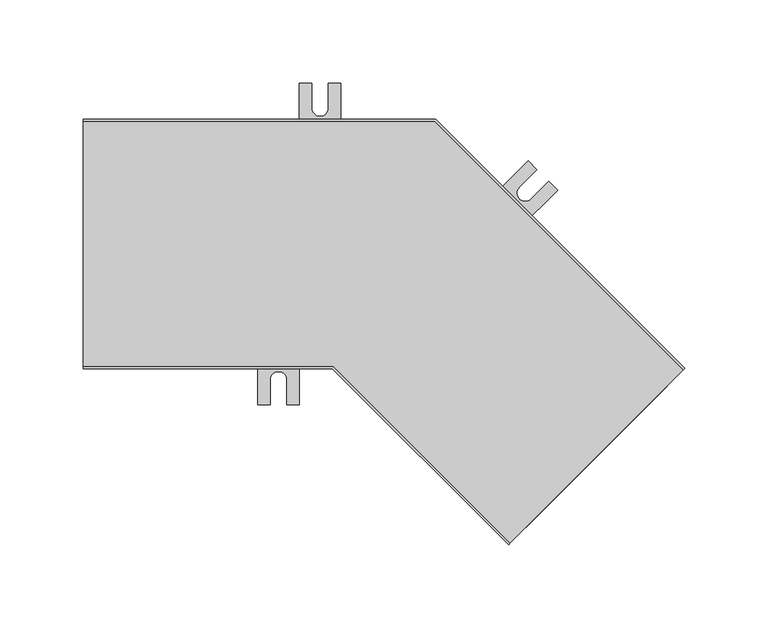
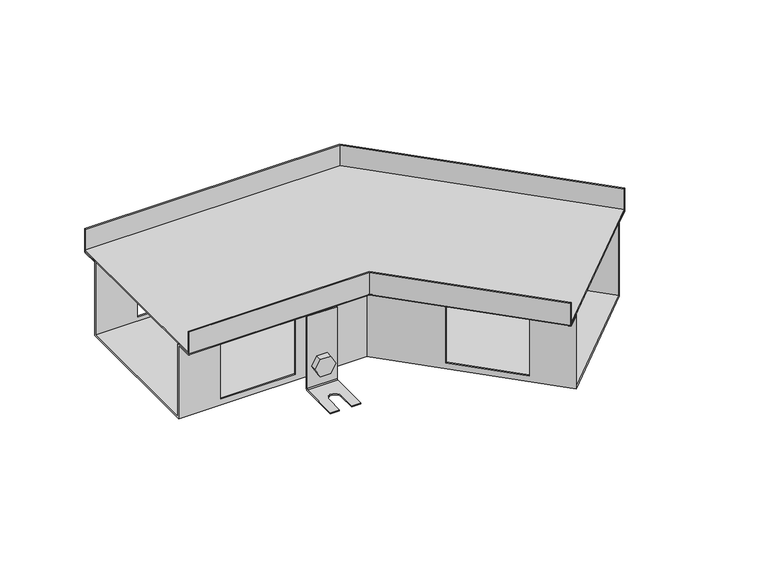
"""IFC4 building model written with IfcOpenShell, lengths in millimetres: proxy geometry, TECHNO_Угловой элемент_KVU : 150_085_135°."""

from ifc_helpers import new_model, si_unit, point, frame, frame_2d, origin, place, context, project, spatial, polyline, circle_curve, ellipse_curve, trimmed, segment, composite_curve, outline, extrude, source, transform, mapped, element, save
from ifc_brep_helpers import plane_surface, cylinder_surface, revolved_surface, advanced_brep


def mechanical_equipment_4d0f178e(model_context):
    return source(origin(), model_context, "Body", "SolidModel", [
        extrude(outline(composite_curve([segment(trimmed(circle_curve(frame_2d((0.0, -7.5000001)), 7.5), [point((0.0, -15.0))], [point((0.0, 0.0))], False, "CARTESIAN"), True, "CONTINUOUS"), segment(trimmed(circle_curve(frame_2d((0.0, -7.5000001)), 7.5), [point((0.0, 0.0))], [point((0.0, -15.0))], False, "CARTESIAN"), True, "CONTINUOUS")], self_intersect=False)), frame((250.4666089, -30.7831745, -75.5), z_axis=(0.7071067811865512, 0.7071067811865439, 0.0), x_axis=(0.0, 0.0, 1.0)), (0.0, 0.0, 1.0), 1.5),
        extrude(outline(polyline([(0.0, 0.0), (8.660254, 1e-07), (12.990381, -7.5), (8.660254, -15.0), (0.0, -15.0), (-4.3301271, -7.4999999), (0.0, 0.0)])), frame((234.584811, -23.810922, -75.5), z_axis=(0.7071067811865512, 0.7071067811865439, 0.0), x_axis=(0.3535533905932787, -0.3535533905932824, -0.8660254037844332)), (0.0, 0.0, 1.0), 5.1),
        advanced_brep(
        [(253.1536147, -35.1672365, -30.5), (253.1536147, -35.1672365, -93.5), (252.5879292, -35.7329219, -94.3), (229.2534055, -59.0674457, -94.3), (229.2534055, -59.0674457, -95.5), (252.5879292, -35.7329219, -95.5), (254.0021428, -34.3187084, -93.5), (254.0021428, -34.3187084, -30.5), (235.4759451, -17.489567, -30.5), (236.3244733, -16.6410388, -30.5), (236.3244733, -16.6410388, -93.5), (234.9102597, -18.0552524, -95.5), (211.5757359, -41.3897762, -95.5), (211.5757359, -41.3897762, -94.3), (234.9102597, -18.0552524, -94.3), (235.4759451, -17.489567, -93.5), (216.8790368, -46.693077, -94.3), (227.4856385, -36.0864753, -94.3), (234.5567063, -43.1575431, -94.3), (223.9501046, -53.7641449, -94.3), (223.9501046, -53.7641449, -95.5), (216.8790368, -46.693077, -95.5), (234.5567063, -43.1575431, -95.5), (227.4856385, -36.0864753, -95.5)],
        [
            (0, 1),
            (1, 2, circle_curve(frame((252.5879292, -35.7329219, -93.5), z_axis=(-0.7071067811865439, 0.7071067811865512, 0.0), x_axis=(-0.7071067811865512, -0.7071067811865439, 0.0)), 0.8)),
            (2, 3),
            (3, 4),
            (4, 5),
            (5, 6, circle_curve(frame((252.5879292, -35.7329219, -93.5), z_axis=(0.7071067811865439, -0.7071067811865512, 0.0), x_axis=(-0.7071067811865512, -0.7071067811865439, 0.0)), 2.0)),
            (6, 7),
            (7, 0),
            (8, 9),
            (9, 10),
            (10, 11, circle_curve(frame((234.9102597, -18.0552524, -93.5), z_axis=(-0.7071067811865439, 0.7071067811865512, 0.0), x_axis=(-0.7071067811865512, -0.7071067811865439, 0.0)), 2.0)),
            (11, 12),
            (12, 13),
            (13, 14),
            (14, 15, circle_curve(frame((234.9102597, -18.0552524, -93.5), z_axis=(0.7071067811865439, -0.7071067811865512, 0.0), x_axis=(-0.7071067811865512, -0.7071067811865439, 0.0)), 0.8)),
            (15, 8),
            (0, 8),
            (15, 1),
            (14, 2),
            (13, 16),
            (16, 17),
            (17, 18, circle_curve(frame((231.0211724, -39.6220092, -94.3), z_axis=(0.0, 0.0, -1.0), x_axis=(0.7071067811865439, -0.7071067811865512, 0.0)), 5.0)),
            (18, 19),
            (19, 3),
            (19, 20),
            (20, 4),
            (12, 21),
            (21, 16),
            (20, 22),
            (22, 23, circle_curve(frame((231.0211724, -39.6220092, -95.5), z_axis=(0.0, 0.0, 1.0), x_axis=(0.7071067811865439, -0.7071067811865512, 0.0)), 5.0)),
            (23, 21),
            (11, 5),
            (10, 6),
            (9, 7),
            (23, 17),
            (18, 22),
        ],
        [
            plane_surface(frame((253.1536147, -35.1672365, -30.5), z_axis=(0.7071067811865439, -0.7071067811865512, 0.0), x_axis=(0.0, 0.0, -1.0))),
            plane_surface(frame((235.4759451, -17.489567, -30.5), z_axis=(-0.7071067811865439, 0.7071067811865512, 0.0), x_axis=(0.0, 0.0, 1.0))),
            plane_surface(frame((253.1536147, -35.1672365, -30.5), z_axis=(-0.7071067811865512, -0.7071067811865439, 0.0), x_axis=(-0.7071067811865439, 0.7071067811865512, 0.0))),
            revolved_surface(polyline([(234.34457427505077, -18.620937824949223, -93.5), (252.02224382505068, -36.29860737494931, -93.5)]), (234.9102597, -18.0552524, -93.5), (-0.7071067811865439, 0.7071067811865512, 0.0)),
            plane_surface(frame((252.5879292, -35.7329219, -94.3), z_axis=(0.0, 0.0, 1.0), x_axis=(-0.7071067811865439, 0.7071067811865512, 0.0))),
            plane_surface(frame((229.2534055, -59.0674457, -94.3), z_axis=(-0.7071067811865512, -0.7071067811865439, 0.0), x_axis=(-0.7071067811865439, 0.7071067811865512, 0.0))),
            plane_surface(frame((229.2534055, -59.0674457, -95.5), z_axis=(0.0, 0.0, -1.0), x_axis=(-0.7071067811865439, 0.7071067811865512, 0.0))),
            cylinder_surface(frame((234.9102597, -18.0552524, -93.5), z_axis=(0.7071067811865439, -0.7071067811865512, 0.0), x_axis=(-0.7071067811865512, -0.7071067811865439, 0.0)), 2.0),
            plane_surface(frame((254.0021428, -34.3187084, -93.5), z_axis=(0.7071067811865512, 0.7071067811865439, 0.0), x_axis=(-0.7071067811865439, 0.7071067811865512, 0.0))),
            plane_surface(frame((254.0021428, -34.3187084, -30.5), z_axis=(0.0, 0.0, 1.0), x_axis=(-0.7071067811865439, 0.7071067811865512, 0.0))),
            plane_surface(frame((227.4856385, -36.0864753, -94.3), z_axis=(0.7071067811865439, -0.7071067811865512, 0.0), x_axis=(0.0, 0.0, -1.0))),
            plane_surface(frame((223.9501046, -53.7641449, -94.3), z_axis=(-0.707106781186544, 0.7071067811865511, 0.0), x_axis=(0.0, 0.0, -1.0))),
            revolved_surface(polyline([(234.55670630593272, -43.15754310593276, -94.3), (234.55670630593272, -43.15754310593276, -95.5)]), (231.0211724, -39.6220092, -95.5), (0.0, 0.0, 1.0)),
        ],
        [
            (0, [[1, 2, 3, 4, 5, 6, 7, 8]]),
            (1, [[9, 10, 11, 12, 13, 14, 15, 16]]),
            (2, [[-1, 17, -16, 18]]),
            (3, [[-2, -18, -15, 19]]),
            (4, [[-3, -19, -14, 20, 21, 22, 23, 24]]),
            (5, [[-4, -24, 25, 26]]),
            (5, [[-13, 27, 28, -20]]),
            (6, [[-5, -26, 29, 30, 31, -27, -12, 32]]),
            (7, [[-6, -32, -11, 33]]),
            (8, [[-7, -33, -10, 34]]),
            (9, [[-8, -34, -9, -17]]),
            (10, [[35, -21, -28, -31]]),
            (11, [[36, -29, -25, -23]]),
            (12, [[-35, -30, -36, -22]]),
        ],
    ),
        extrude(outline(composite_curve([segment(trimmed(circle_curve(frame_2d((0.0, -7.5)), 7.5), [point((0.0, -15.0))], [point((0.0, 0.0))], False, "CARTESIAN"), True, "CONTINUOUS"), segment(trimmed(circle_curve(frame_2d((0.0, -7.5)), 7.5), [point((0.0, 0.0))], [point((0.0, -15.0))], False, "CARTESIAN"), True, "CONTINUOUS")], self_intersect=False)), frame((245.3754401, 20.6941992, -75.5), z_axis=(0.7071067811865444, 0.7071067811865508, 0.0), x_axis=(0.0, 0.0, -1.0)), (0.0, 0.0, 1.0), 1.5),
        extrude(outline(polyline([(0.0, 0.0), (4.330127, -7.5), (0.0, -15.0), (-8.660254, -15.0), (-12.990381, -7.5), (-8.6602541, 0.0), (0.0, 0.0)])), frame((258.7116536, 11.1763623, -75.5), z_axis=(0.7071067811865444, 0.7071067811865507, 0.0), x_axis=(0.35355339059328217, -0.35355339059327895, 0.8660254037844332)), (0.0, 0.0, 1.0), 5.1),
        advanced_brep(
        [(243.7490945, 26.1389214, -30.5), (243.7490945, 26.1389214, -93.5), (244.3147799, 26.7046068, -94.3), (267.6493037, 50.0391306, -94.3), (267.6493037, 50.0391306, -95.5), (244.3147799, 26.7046068, -95.5), (242.9005663, 25.2903933, -93.5), (242.9005663, 25.2903933, -30.5), (261.426764, 8.4612519, -30.5), (260.5782359, 7.6127238, -30.5), (260.5782359, 7.6127238, -93.5), (261.9924494, 9.0269373, -95.5), (285.3269732, 32.3614611, -95.5), (285.3269732, 32.3614611, -94.3), (261.9924494, 9.0269373, -94.3), (261.426764, 8.4612519, -93.5), (280.0236724, 37.664762, -94.3), (269.4170706, 27.0581602, -94.3), (262.3460028, 34.129228, -94.3), (272.9526045, 44.7358298, -94.3), (272.9526045, 44.7358298, -95.5), (280.0236724, 37.664762, -95.5), (262.3460028, 34.129228, -95.5), (269.4170706, 27.0581602, -95.5)],
        [
            (0, 1),
            (1, 2, circle_curve(frame((244.3147799, 26.7046068, -93.5), z_axis=(0.7071067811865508, -0.7071067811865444, 0.0), x_axis=(0.7071067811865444, 0.7071067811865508, 0.0)), 0.8)),
            (2, 3),
            (3, 4),
            (4, 5),
            (5, 6, circle_curve(frame((244.3147799, 26.7046068, -93.5), z_axis=(-0.7071067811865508, 0.7071067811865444, 0.0), x_axis=(0.7071067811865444, 0.7071067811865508, 0.0)), 2.0)),
            (6, 7),
            (7, 0),
            (8, 9),
            (9, 10),
            (10, 11, circle_curve(frame((261.9924494, 9.0269373, -93.5), z_axis=(0.7071067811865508, -0.7071067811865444, 0.0), x_axis=(0.7071067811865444, 0.7071067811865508, 0.0)), 2.0)),
            (11, 12),
            (12, 13),
            (13, 14),
            (14, 15, circle_curve(frame((261.9924494, 9.0269373, -93.5), z_axis=(-0.7071067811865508, 0.7071067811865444, 0.0), x_axis=(0.7071067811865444, 0.7071067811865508, 0.0)), 0.8)),
            (15, 8),
            (0, 8),
            (15, 1),
            (14, 2),
            (13, 16),
            (16, 17),
            (17, 18, circle_curve(frame((265.8815367, 30.5936941, -94.3), z_axis=(0.0, 0.0, -1.0), x_axis=(-0.7071067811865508, 0.7071067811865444, 0.0)), 5.0)),
            (18, 19),
            (19, 3),
            (19, 20),
            (20, 4),
            (12, 21),
            (21, 16),
            (20, 22),
            (22, 23, circle_curve(frame((265.8815367, 30.5936941, -95.5), z_axis=(0.0, 0.0, 1.0), x_axis=(-0.7071067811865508, 0.7071067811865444, 0.0)), 5.0)),
            (23, 21),
            (11, 5),
            (10, 6),
            (9, 7),
            (23, 17),
            (18, 22),
        ],
        [
            plane_surface(frame((243.7490945, 26.1389214, -30.5), z_axis=(-0.7071067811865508, 0.7071067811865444, 0.0), x_axis=(0.0, 0.0, -1.0))),
            plane_surface(frame((261.426764, 8.4612519, -30.5), z_axis=(0.7071067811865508, -0.7071067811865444, 0.0), x_axis=(0.0, 0.0, 1.0))),
            plane_surface(frame((243.7490945, 26.1389214, -30.5), z_axis=(0.7071067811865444, 0.7071067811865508, 0.0), x_axis=(0.7071067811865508, -0.7071067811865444, 0.0))),
            revolved_surface(polyline([(262.5581348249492, 9.59262272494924, -93.5), (244.8804653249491, 27.270292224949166, -93.5)]), (261.9924494, 9.0269373, -93.5), (0.7071067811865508, -0.7071067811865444, 0.0)),
            plane_surface(frame((244.3147799, 26.7046068, -94.3), z_axis=(0.0, 0.0, 1.0000000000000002), x_axis=(0.7071067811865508, -0.7071067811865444, 0.0))),
            plane_surface(frame((267.6493037, 50.0391306, -94.3), z_axis=(0.7071067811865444, 0.7071067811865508, 0.0), x_axis=(0.7071067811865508, -0.7071067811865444, 0.0))),
            plane_surface(frame((267.6493037, 50.0391306, -95.5), z_axis=(0.0, 0.0, -1.0000000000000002), x_axis=(0.7071067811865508, -0.7071067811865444, 0.0))),
            cylinder_surface(frame((261.9924494, 9.0269373, -93.5), z_axis=(-0.7071067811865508, 0.7071067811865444, 0.0), x_axis=(0.7071067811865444, 0.7071067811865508, 0.0)), 2.0),
            plane_surface(frame((242.9005663, 25.2903933, -93.5), z_axis=(-0.7071067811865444, -0.7071067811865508, 0.0), x_axis=(0.7071067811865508, -0.7071067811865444, 0.0))),
            plane_surface(frame((242.9005663, 25.2903933, -30.5), z_axis=(0.0, 0.0, 1.0000000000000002), x_axis=(0.7071067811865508, -0.7071067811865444, 0.0))),
            plane_surface(frame((269.4170706, 27.0581602, -94.3), z_axis=(-0.7071067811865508, 0.7071067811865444, 0.0), x_axis=(0.0, 0.0, -1.0))),
            plane_surface(frame((272.9526045, 44.7358298, -94.3), z_axis=(0.7071067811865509, -0.7071067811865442, 0.0), x_axis=(0.0, 0.0, -1.0))),
            revolved_surface(polyline([(262.34600279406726, 34.129228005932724, -94.3), (262.34600279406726, 34.129228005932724, -95.5)]), (265.8815367, 30.5936941, -95.5), (0.0, 0.0, 1.0)),
        ],
        [
            (0, [[1, 2, 3, 4, 5, 6, 7, 8]]),
            (1, [[9, 10, 11, 12, 13, 14, 15, 16]]),
            (2, [[-1, 17, -16, 18]]),
            (3, [[-2, -18, -15, 19]]),
            (4, [[-3, -19, -14, 20, 21, 22, 23, 24]]),
            (5, [[-4, -24, 25, 26]]),
            (5, [[-13, 27, 28, -20]]),
            (6, [[-5, -26, 29, 30, 31, -27, -12, 32]]),
            (7, [[-6, -32, -11, 33]]),
            (8, [[-7, -33, -10, 34]]),
            (9, [[-8, -34, -9, -17]]),
            (10, [[35, -21, -28, -31]]),
            (11, [[36, -29, -25, -23]]),
            (12, [[-35, -30, -36, -22]]),
        ],
    ),
        extrude(outline(composite_curve([segment(trimmed(circle_curve(frame_2d((-75.5, 142.5)), 7.5), [point((-75.5, 135.0))], [point((-75.5, 150.0))], False, "CARTESIAN"), True, "CONTINUOUS"), segment(trimmed(circle_curve(frame_2d((-75.5, 142.5)), 7.5), [point((-75.5, 150.0))], [point((-75.5, 135.0))], False, "CARTESIAN"), True, "CONTINUOUS")], self_intersect=False)), frame((0.0, 60.2, 0.0), z_axis=(0.0, 1.0, 0.0), x_axis=(0.0, 0.0, 1.0)), (0.0, 0.0, 1.0), 1.5),
        extrude(outline(polyline([(-75.5, 133.839746), (-83.0, 138.169873), (-83.0, 146.830127), (-75.5, 151.160254), (-68.0, 146.830127), (-68.0, 138.169873), (-75.5, 133.839746)])), frame((0.0, 62.9, 0.0), z_axis=(0.0, 1.0, 0.0), x_axis=(0.0, 0.0, 1.0)), (0.0, 0.0, 1.0), 5.1),
        advanced_brep(
        [(155.0, 62.9, -30.5), (155.0, 61.7, -30.5), (155.0, 61.7, -93.5), (155.0, 63.7, -95.5), (155.0, 96.7, -95.5), (155.0, 96.7, -94.3), (155.0, 63.7, -94.3), (155.0, 62.9, -93.5), (130.0, 62.9, -30.5), (130.0, 62.9, -93.5), (130.0, 63.7, -94.3), (130.0, 96.7, -94.3), (130.0, 96.7, -95.5), (130.0, 63.7, -95.5), (130.0, 61.7, -93.5), (130.0, 61.7, -30.5), (147.5, 96.7, -94.3), (147.5, 81.7, -94.3), (137.5, 81.7, -94.3), (137.5, 96.7, -94.3), (137.5, 96.7, -95.5), (147.5, 96.7, -95.5), (137.5, 81.7, -95.5), (147.5, 81.7, -95.5)],
        [
            (0, 1),
            (1, 2),
            (2, 3, circle_curve(frame((155.0, 63.7, -93.5), z_axis=(1.0, 0.0, 0.0), x_axis=(0.0, 1.0, 0.0)), 2.0)),
            (3, 4),
            (4, 5),
            (5, 6),
            (6, 7, circle_curve(frame((155.0, 63.7, -93.5), z_axis=(-1.0, 0.0, 0.0), x_axis=(0.0, 1.0, 0.0)), 0.8)),
            (7, 0),
            (8, 9),
            (9, 10, circle_curve(frame((130.0, 63.7, -93.5), z_axis=(1.0, 0.0, 0.0), x_axis=(0.0, 1.0, 0.0)), 0.8)),
            (10, 11),
            (11, 12),
            (12, 13),
            (13, 14, circle_curve(frame((130.0, 63.7, -93.5), z_axis=(-1.0, 0.0, 0.0), x_axis=(0.0, 1.0, 0.0)), 2.0)),
            (14, 15),
            (15, 8),
            (7, 9),
            (8, 0),
            (6, 10),
            (5, 16),
            (16, 17),
            (17, 18, circle_curve(frame((142.5, 81.7, -94.3), z_axis=(0.0, 0.0, -1.0), x_axis=(1.0, 0.0, 0.0)), 5.0)),
            (18, 19),
            (19, 11),
            (19, 20),
            (20, 12),
            (4, 21),
            (21, 16),
            (3, 13),
            (20, 22),
            (22, 23, circle_curve(frame((142.5, 81.7, -95.5), z_axis=(0.0, 0.0, 1.0), x_axis=(1.0, 0.0, 0.0)), 5.0)),
            (23, 21),
            (2, 14),
            (1, 15),
            (18, 22),
            (23, 17),
        ],
        [
            plane_surface(frame((155.0, 62.9, -30.5), z_axis=(1.0, 0.0, 0.0), x_axis=(0.0, 0.0, -1.0))),
            plane_surface(frame((130.0, 62.9, -30.5), z_axis=(-1.0, 0.0, 0.0), x_axis=(0.0, 0.0, 1.0))),
            plane_surface(frame((155.0, 62.9, -30.5), z_axis=(0.0, 1.0, 0.0), x_axis=(-1.0, 0.0, 0.0))),
            revolved_surface(polyline([(130.0, 64.5, -93.5), (155.0, 64.5, -93.5)]), (130.0, 63.7, -93.5), (-1.0, 0.0, 0.0)),
            plane_surface(frame((155.0, 63.7, -94.3), z_axis=(0.0, 0.0, 1.0), x_axis=(-1.0, 0.0, 0.0))),
            plane_surface(frame((155.0, 96.7, -94.3), z_axis=(0.0, 1.0, 0.0), x_axis=(-1.0, 0.0, 0.0))),
            plane_surface(frame((155.0, 96.7, -95.5), z_axis=(0.0, 0.0, -1.0), x_axis=(-1.0, 0.0, 0.0))),
            cylinder_surface(frame((130.0, 63.7, -93.5), z_axis=(1.0, 0.0, 0.0), x_axis=(0.0, 1.0, 0.0)), 2.0),
            plane_surface(frame((155.0, 61.7, -93.5), z_axis=(0.0, -1.0, 0.0), x_axis=(-1.0, 0.0, 0.0))),
            plane_surface(frame((155.0, 61.7, -30.5), z_axis=(0.0, 0.0, 1.0), x_axis=(-1.0, 0.0, 0.0))),
            plane_surface(frame((137.5, 81.7, -94.3), z_axis=(1.0, 0.0, 0.0), x_axis=(0.0, 0.0, -1.0))),
            plane_surface(frame((147.5, 96.7, -94.3), z_axis=(-1.0, 0.0, 0.0), x_axis=(0.0, 0.0, -1.0))),
            revolved_surface(polyline([(147.5, 81.7, -94.3), (147.5, 81.7, -95.5)]), (142.5, 81.7, -95.5), (0.0, 0.0, 1.0)),
        ],
        [
            (0, [[1, 2, 3, 4, 5, 6, 7, 8]]),
            (1, [[9, 10, 11, 12, 13, 14, 15, 16]]),
            (2, [[17, -9, 18, -8]]),
            (3, [[19, -10, -17, -7]]),
            (4, [[20, 21, 22, 23, 24, -11, -19, -6]]),
            (5, [[-24, 25, 26, -12]]),
            (5, [[27, 28, -20, -5]]),
            (6, [[29, -13, -26, 30, 31, 32, -27, -4]]),
            (7, [[33, -14, -29, -3]]),
            (8, [[34, -15, -33, -2]]),
            (9, [[-18, -16, -34, -1]]),
            (10, [[-30, -25, -23, 35]]),
            (11, [[-21, -28, -32, 36]]),
            (12, [[-22, -36, -31, -35]]),
        ],
    ),
        extrude(outline(composite_curve([segment(trimmed(circle_curve(frame_2d((-75.5, 117.5)), 7.5), [point((-75.5, 110.0))], [point((-75.5, 125.0))], False, "CARTESIAN"), True, "CONTINUOUS"), segment(trimmed(circle_curve(frame_2d((-75.5, 117.5)), 7.5), [point((-75.5, 125.0))], [point((-75.5, 110.0))], False, "CARTESIAN"), True, "CONTINUOUS")], self_intersect=False)), frame((0.0, -61.7, 0.0), z_axis=(0.0, 1.0, 0.0), x_axis=(0.0, 0.0, 1.0)), (0.0, 0.0, 1.0), 1.5),
        extrude(outline(polyline([(-75.5, 108.839746), (-83.0, 113.169873), (-83.0, 121.830127), (-75.5, 126.160254), (-68.0, 121.830127), (-68.0, 113.169873), (-75.5, 108.839746)])), frame((0.0, -68.0, 0.0), z_axis=(0.0, 1.0, 0.0), x_axis=(0.0, 0.0, 1.0)), (0.0, 0.0, 1.0), 5.1),
        advanced_brep(
        [(130.0, -62.9, -30.5), (130.0, -62.9, -93.5), (130.0, -63.7, -94.3), (130.0, -96.7, -94.3), (130.0, -96.7, -95.5), (130.0, -63.7, -95.5), (130.0, -61.7, -93.5), (130.0, -61.7, -30.5), (105.0, -62.9, -30.5), (105.0, -61.7, -30.5), (105.0, -61.7, -93.5), (105.0, -63.7, -95.5), (105.0, -96.7, -95.5), (105.0, -96.7, -94.3), (105.0, -63.7, -94.3), (105.0, -62.9, -93.5), (112.5, -96.7, -94.3), (112.5, -81.7, -94.3), (122.5, -81.7, -94.3), (122.5, -96.7, -94.3), (122.5, -96.7, -95.5), (112.5, -96.7, -95.5), (122.5, -81.7, -95.5), (112.5, -81.7, -95.5)],
        [
            (0, 1),
            (1, 2, circle_curve(frame((130.0, -63.7, -93.5), z_axis=(-1.0, 0.0, 0.0), x_axis=(0.0, -1.0, 0.0)), 0.8)),
            (2, 3),
            (3, 4),
            (4, 5),
            (5, 6, circle_curve(frame((130.0, -63.7, -93.5), z_axis=(1.0, 0.0, 0.0), x_axis=(0.0, -1.0, 0.0)), 2.0)),
            (6, 7),
            (7, 0),
            (8, 9),
            (9, 10),
            (10, 11, circle_curve(frame((105.0, -63.7, -93.5), z_axis=(-1.0, 0.0, 0.0), x_axis=(0.0, -1.0, 0.0)), 2.0)),
            (11, 12),
            (12, 13),
            (13, 14),
            (14, 15, circle_curve(frame((105.0, -63.7, -93.5), z_axis=(1.0, 0.0, 0.0), x_axis=(0.0, -1.0, 0.0)), 0.8)),
            (15, 8),
            (0, 8),
            (15, 1),
            (14, 2),
            (13, 16),
            (16, 17),
            (17, 18, circle_curve(frame((117.5, -81.7, -94.3), z_axis=(0.0, 0.0, -1.0), x_axis=(1.0, 0.0, 0.0)), 5.0)),
            (18, 19),
            (19, 3),
            (19, 20),
            (20, 4),
            (12, 21),
            (21, 16),
            (20, 22),
            (22, 23, circle_curve(frame((117.5, -81.7, -95.5), z_axis=(0.0, 0.0, 1.0), x_axis=(1.0, 0.0, 0.0)), 5.0)),
            (23, 21),
            (11, 5),
            (10, 6),
            (9, 7),
            (23, 17),
            (18, 22),
        ],
        [
            plane_surface(frame((130.0, -62.9, -30.5), z_axis=(1.0, 0.0, 0.0), x_axis=(0.0, 0.0, -1.0))),
            plane_surface(frame((105.0, -62.9, -30.5), z_axis=(-1.0, 0.0, 0.0), x_axis=(0.0, 0.0, 1.0))),
            plane_surface(frame((130.0, -62.9, -30.5), z_axis=(0.0, -1.0, 0.0), x_axis=(-1.0, 0.0, 0.0))),
            revolved_surface(polyline([(105.0, -64.5, -93.5), (130.0, -64.5, -93.5)]), (105.0, -63.7, -93.5), (-1.0, 0.0, 0.0)),
            plane_surface(frame((130.0, -63.7, -94.3), z_axis=(0.0, 0.0, 1.0), x_axis=(-1.0, 0.0, 0.0))),
            plane_surface(frame((130.0, -96.7, -94.3), z_axis=(0.0, -1.0, 0.0), x_axis=(-1.0, 0.0, 0.0))),
            plane_surface(frame((130.0, -96.7, -95.5), z_axis=(0.0, 0.0, -1.0), x_axis=(-1.0, 0.0, 0.0))),
            cylinder_surface(frame((105.0, -63.7, -93.5), z_axis=(1.0, 0.0, 0.0), x_axis=(0.0, -1.0, 0.0)), 2.0),
            plane_surface(frame((130.0, -61.7, -93.5), z_axis=(0.0, 1.0, 0.0), x_axis=(-1.0, 0.0, 0.0))),
            plane_surface(frame((130.0, -61.7, -30.5), z_axis=(0.0, 0.0, 1.0), x_axis=(-1.0, 0.0, 0.0))),
            plane_surface(frame((112.5, -81.7, -94.3), z_axis=(1.0, 0.0, 0.0), x_axis=(0.0, 0.0, -1.0))),
            plane_surface(frame((122.5, -96.7, -94.3), z_axis=(-1.0, 0.0, 0.0), x_axis=(0.0, 0.0, -1.0))),
            revolved_surface(polyline([(122.5, -81.7, -94.3), (122.5, -81.7, -95.5)]), (117.5, -81.7, -95.5), (0.0, 0.0, 1.0)),
        ],
        [
            (0, [[1, 2, 3, 4, 5, 6, 7, 8]]),
            (1, [[9, 10, 11, 12, 13, 14, 15, 16]]),
            (2, [[-1, 17, -16, 18]]),
            (3, [[-2, -18, -15, 19]]),
            (4, [[-3, -19, -14, 20, 21, 22, 23, 24]]),
            (5, [[-4, -24, 25, 26]]),
            (5, [[-13, 27, 28, -20]]),
            (6, [[-5, -26, 29, 30, 31, -27, -12, 32]]),
            (7, [[-6, -32, -11, 33]]),
            (8, [[-7, -33, -10, 34]]),
            (9, [[-8, -34, -9, -17]]),
            (10, [[35, -21, -28, -31]]),
            (11, [[36, -29, -25, -23]]),
            (12, [[-35, -30, -36, -22]]),
        ],
    ),
        extrude(outline(polyline([(361.0581095, -75.7551657), (256.6891486, -180.1241267), (150.3650219, -73.8), (0.0, -73.8), (0.0, 73.8), (211.5029437, 73.8), (361.0581095, -75.7551657)])), frame((0.0, 0.0, -19.3), z_axis=(0.0, 0.0, 1.0), x_axis=(1.0, 0.0, 0.0)), (0.0, 0.0, 1.0), 1.2),
        advanced_brep(
        [(255.8406204, -180.9726548, -19.3), (256.6891486, -180.1241267, -20.5), (266.3058008, -170.5074744, -20.5), (266.3058008, -170.5074744, -85.0), (351.4414572, -85.371818, -85.0), (351.4414572, -85.371818, -20.5), (361.0581095, -75.7551657, -20.5), (361.9066376, -74.9066376, -19.3), (361.9066376, -74.9066376, 0.0), (361.0581095, -75.7551657, 0.0), (361.0581095, -75.7551657, -19.3), (351.4414572, -85.371818, -19.3), (350.5929291, -86.2203461, -20.5), (350.5929291, -86.2203461, -83.8), (267.1543289, -169.6589463, -83.8), (267.1543289, -169.6589463, -20.5), (266.3058008, -170.5074744, -19.3), (256.6891486, -180.1241267, -19.3), (256.6891486, -180.1241267, 0.0), (255.8406204, -180.9726548, 0.0), (0.0, -75.0, -19.3), (0.0, -75.0, 0.0), (0.0, -73.8, 0.0), (0.0, -73.8, -19.3), (0.0, -60.2, -19.3), (0.0, -59.0, -20.5), (0.0, -59.0, -83.8), (0.0, 59.0, -83.8), (0.0, 59.0, -20.5), (0.0, 60.2, -19.3), (0.0, 73.8, -19.3), (0.0, 73.8, 0.0), (0.0, 75.0, 0.0), (0.0, 75.0, -19.3), (0.0, 73.8, -20.5), (0.0, 60.2, -20.5), (0.0, 60.2, -85.0), (0.0, -60.2, -85.0), (0.0, -60.2, -20.5), (0.0, -73.8, -20.5), (150.3650219, -73.8, -20.5), (149.8679656, -75.0, -19.3), (150.3650219, -73.8, 0.0), (150.3650219, -73.8, -19.3), (155.9983264, -60.2, -85.0), (155.9983264, -60.2, -20.5), (35.0, -60.2, -28.0), (97.0, -60.2, -28.0), (97.0, -60.2, -80.0), (35.0, -60.2, -80.0), (156.4953826, -59.0, -20.5), (156.4953826, -59.0, -83.8), (97.0, -59.0, -28.0), (35.0, -59.0, -28.0), (35.0, -59.0, -80.0), (97.0, -59.0, -80.0), (155.9983264, -60.2, -19.3), (197.716443, -101.9181167, -28.0), (241.5570635, -145.7587371, -28.0), (241.5570635, -145.7587371, -80.0), (197.716443, -101.9181167, -80.0), (205.8696393, 60.2, -85.0), (205.372583, 59.0, -83.8), (242.4055916, -144.9102089, -28.0), (198.5649712, -101.0695885, -28.0), (198.5649712, -101.0695885, -80.0), (242.4055916, -144.9102089, -80.0), (149.8679656, -75.0, 0.0), (205.8696393, 60.2, -20.5), (326.6927199, -60.6230806, -28.0), (282.8520995, -16.7824602, -28.0), (282.8520995, -16.7824602, -80.0), (326.6927199, -60.6230806, -80.0), (211.5029437, 73.8, -20.5), (212.0, 75.0, -19.3), (212.0, 75.0, 0.0), (211.5029437, 73.8, 0.0), (211.5029437, 73.8, -19.3), (205.8696393, 60.2, -19.3), (205.372583, 59.0, -20.5), (282.0035713, -17.6309883, -28.0), (325.8441918, -61.4716088, -28.0), (325.8441918, -61.4716088, -80.0), (282.0035713, -17.6309883, -80.0), (97.0, 60.2, -28.0), (35.0, 60.2, -28.0), (35.0, 60.2, -80.0), (97.0, 60.2, -80.0), (35.0, 59.0, -28.0), (97.0, 59.0, -28.0), (97.0, 59.0, -80.0), (35.0, 59.0, -80.0)],
        [
            (0, 1, circle_curve(frame((256.6891486, -180.1241267, -19.3), z_axis=(0.707106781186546, -0.707106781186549, 0.0), x_axis=(-0.707106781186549, -0.707106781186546, 0.0)), 1.2)),
            (1, 2),
            (2, 3),
            (3, 4),
            (4, 5),
            (5, 6),
            (6, 7, circle_curve(frame((361.0581095, -75.7551657, -19.3), z_axis=(0.707106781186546, -0.707106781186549, 0.0), x_axis=(-0.707106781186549, -0.707106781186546, 0.0)), 1.2)),
            (7, 8),
            (8, 9),
            (9, 10),
            (10, 11),
            (11, 12, circle_curve(frame((351.4414572, -85.371818, -20.5), z_axis=(0.707106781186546, -0.707106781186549, 0.0), x_axis=(-0.707106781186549, -0.707106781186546, 0.0)), 1.2)),
            (12, 13),
            (13, 14),
            (14, 15),
            (15, 16, circle_curve(frame((266.3058008, -170.5074744, -20.5), z_axis=(0.707106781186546, -0.707106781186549, 0.0), x_axis=(-0.707106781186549, -0.707106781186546, 0.0)), 1.2)),
            (16, 17),
            (17, 18),
            (18, 19),
            (19, 0),
            (20, 21),
            (21, 22),
            (22, 23),
            (23, 24),
            (24, 25, circle_curve(frame((0.0, -60.2, -20.5), z_axis=(-1.0, 0.0, 0.0), x_axis=(0.0, -1.0, 0.0)), 1.2)),
            (25, 26),
            (26, 27),
            (27, 28),
            (28, 29, circle_curve(frame((0.0, 60.2, -20.5), z_axis=(-1.0, 0.0, 0.0), x_axis=(0.0, -1.0, 0.0)), 1.2)),
            (29, 30),
            (30, 31),
            (31, 32),
            (32, 33),
            (33, 34, circle_curve(frame((0.0, 73.8, -19.3), z_axis=(-1.0, 0.0, 0.0), x_axis=(0.0, -1.0, 0.0)), 1.2)),
            (34, 35),
            (35, 36),
            (36, 37),
            (37, 38),
            (38, 39),
            (39, 20, circle_curve(frame((0.0, -73.8, -19.3), z_axis=(-1.0, 0.0, 0.0), x_axis=(0.0, -1.0, 0.0)), 1.2)),
            (39, 40),
            (40, 41, ellipse_curve(frame((150.3650219, -73.8, -19.3), z_axis=(-0.9238795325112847, 0.3826834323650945, 0.0), x_axis=(0.38268343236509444, 0.9238795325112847, 0.0)), 1.2988706, 1.2)),
            (41, 20),
            (22, 42),
            (42, 43),
            (43, 23),
            (37, 44),
            (44, 45),
            (45, 38),
            (46, 47),
            (47, 48),
            (48, 49),
            (49, 46),
            (25, 50),
            (50, 51),
            (51, 26),
            (52, 53),
            (53, 54),
            (54, 55),
            (55, 52),
            (24, 56),
            (56, 50, ellipse_curve(frame((155.9983264, -60.2, -20.5), z_axis=(-0.9238795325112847, 0.3826834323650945, 0.0), x_axis=(0.38268343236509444, 0.9238795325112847, 0.0)), 1.2988706, 1.2)),
            (0, 41),
            (40, 1),
            (45, 2),
            (44, 3),
            (57, 58),
            (58, 59),
            (59, 60),
            (60, 57),
            (36, 61),
            (61, 4),
            (13, 62),
            (62, 27),
            (51, 14),
            (50, 15),
            (63, 64),
            (64, 65),
            (65, 66),
            (66, 63),
            (56, 16),
            (43, 17),
            (42, 18),
            (21, 67),
            (67, 19),
            (61, 68),
            (68, 5),
            (69, 70),
            (70, 71),
            (71, 72),
            (72, 69),
            (68, 35),
            (34, 73),
            (73, 6),
            (73, 74, ellipse_curve(frame((211.5029437, 73.8, -19.3), z_axis=(0.9238795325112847, -0.3826834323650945, 0.0), x_axis=(-0.38268343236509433, -0.9238795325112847, 0.0)), 1.2988706, 1.2)),
            (74, 7),
            (74, 75),
            (75, 8),
            (75, 32),
            (31, 76),
            (76, 9),
            (76, 77),
            (77, 10),
            (77, 30),
            (29, 78),
            (78, 11),
            (78, 79, ellipse_curve(frame((205.8696393, 60.2, -20.5), z_axis=(0.9238795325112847, -0.3826834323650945, 0.0), x_axis=(-0.38268343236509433, -0.9238795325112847, 0.0)), 1.2988706, 1.2)),
            (79, 12),
            (79, 62),
            (80, 81),
            (81, 82),
            (82, 83),
            (83, 80),
            (84, 85),
            (85, 86),
            (86, 87),
            (87, 84),
            (33, 74),
            (28, 79),
            (88, 89),
            (89, 90),
            (90, 91),
            (91, 88),
            (41, 67),
            (46, 53),
            (52, 47),
            (88, 85),
            (84, 89),
            (49, 54),
            (91, 86),
            (48, 55),
            (90, 87),
            (57, 64),
            (63, 58),
            (80, 70),
            (69, 81),
            (66, 59),
            (72, 82),
            (65, 60),
            (71, 83),
        ],
        [
            plane_surface(frame((308.873629, -127.9396462, 0.0), z_axis=(0.707106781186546, -0.707106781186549, 0.0), x_axis=(0.0, 0.0, 1.0))),
            plane_surface(frame((0.0, 0.0, 0.0), z_axis=(-1.0, 0.0, 0.0), x_axis=(0.0, 0.0, 1.0))),
            cylinder_surface(frame((180.9339828, -73.8, -19.3), z_axis=(1.0, 0.0, 0.0), x_axis=(0.0, -1.0, 0.0)), 1.2),
            plane_surface(frame((150.3650219, -73.8, -19.3), z_axis=(0.0, 1.0, 0.0), x_axis=(-1.0, 0.0, 0.0))),
            plane_surface(frame((155.9983264, -60.2, -20.5), z_axis=(0.0, -1.0, 0.0), x_axis=(-1.0, 0.0, 0.0))),
            plane_surface(frame((156.4953826, -59.0, -83.8), z_axis=(0.0, 1.0, 0.0), x_axis=(-1.0, 0.0, 0.0))),
            cylinder_surface(frame((180.9339828, -60.2, -20.5), z_axis=(1.0, 0.0, 0.0), x_axis=(0.0, -1.0, 0.0)), 1.2),
            cylinder_surface(frame((256.6891486, -180.1241267, -19.3), z_axis=(0.707106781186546, -0.707106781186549, 0.0), x_axis=(-0.707106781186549, -0.707106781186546, 0.0)), 1.2),
            plane_surface(frame((256.6891486, -180.1241267, -20.5), z_axis=(0.0, 0.0, -1.0), x_axis=(-0.7071067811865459, 0.7071067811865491, 0.0))),
            plane_surface(frame((266.3058008, -170.5074744, -20.5), z_axis=(-0.7071067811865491, -0.707106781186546, 0.0), x_axis=(-0.707106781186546, 0.7071067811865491, 0.0))),
            plane_surface(frame((266.3058008, -170.5074744, -85.0), z_axis=(0.0, 0.0, -1.0), x_axis=(-0.7071067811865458, 0.7071067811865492, 0.0))),
            plane_surface(frame((350.5929291, -86.2203461, -83.8), z_axis=(0.0, 0.0, 1.0), x_axis=(-0.7071067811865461, 0.707106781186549, 0.0))),
            plane_surface(frame((267.1543289, -169.6589463, -83.8), z_axis=(0.7071067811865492, 0.7071067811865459, 0.0), x_axis=(-0.7071067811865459, 0.7071067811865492, 0.0))),
            cylinder_surface(frame((266.3058008, -170.5074744, -20.5), z_axis=(0.707106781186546, -0.707106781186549, 0.0), x_axis=(-0.707106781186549, -0.707106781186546, 0.0)), 1.2),
            plane_surface(frame((266.3058008, -170.5074744, -19.3), z_axis=(0.0, 0.0, 1.0), x_axis=(-0.707106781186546, 0.7071067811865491, 0.0))),
            plane_surface(frame((256.6891486, -180.1241267, -19.3), z_axis=(0.7071067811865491, 0.7071067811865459, 0.0), x_axis=(-0.7071067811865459, 0.7071067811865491, 0.0))),
            plane_surface(frame((256.6891486, -180.1241267, 0.0), z_axis=(0.0, 0.0, 1.0), x_axis=(-0.7071067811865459, 0.7071067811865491, 0.0))),
            plane_surface(frame((351.4414572, -85.371818, -85.0), z_axis=(0.7071067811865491, 0.707106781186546, 0.0), x_axis=(-0.707106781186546, 0.7071067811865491, 0.0))),
            plane_surface(frame((351.4414572, -85.371818, -20.5), z_axis=(0.0, 0.0, -1.0000000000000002), x_axis=(-0.7071067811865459, 0.7071067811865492, 0.0))),
            cylinder_surface(frame((361.0581095, -75.7551657, -19.3), z_axis=(0.707106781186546, -0.707106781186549, 0.0), x_axis=(-0.707106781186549, -0.707106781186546, 0.0)), 1.2),
            plane_surface(frame((361.9066376, -74.9066376, -19.3), z_axis=(0.7071067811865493, 0.7071067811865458, 0.0), x_axis=(-0.7071067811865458, 0.7071067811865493, 0.0))),
            plane_surface(frame((361.9066376, -74.9066376, 0.0), z_axis=(0.0, 0.0, 1.0), x_axis=(-0.7071067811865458, 0.7071067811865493, 0.0))),
            plane_surface(frame((361.0581095, -75.7551657, 0.0), z_axis=(-0.7071067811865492, -0.7071067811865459, 0.0), x_axis=(-0.7071067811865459, 0.7071067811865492, 0.0))),
            plane_surface(frame((361.0581095, -75.7551657, -19.3), z_axis=(0.0, 0.0, 1.0), x_axis=(-0.7071067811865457, 0.7071067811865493, 0.0))),
            cylinder_surface(frame((351.4414572, -85.371818, -20.5), z_axis=(0.707106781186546, -0.707106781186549, 0.0), x_axis=(-0.707106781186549, -0.707106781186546, 0.0)), 1.2),
            plane_surface(frame((350.5929291, -86.2203461, -20.5), z_axis=(-0.707106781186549, -0.7071067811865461, 0.0), x_axis=(-0.7071067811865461, 0.707106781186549, 0.0))),
            plane_surface(frame((205.8696393, 60.2, -85.0), z_axis=(0.0, 1.0, 0.0), x_axis=(-1.0, 0.0, 0.0))),
            cylinder_surface(frame((180.9339828, 73.8, -19.3), z_axis=(1.0, 0.0, 0.0), x_axis=(0.0, -1.0, 0.0)), 1.2),
            plane_surface(frame((212.0, 75.0, -19.3), z_axis=(0.0, 1.0, 0.0), x_axis=(-1.0, 0.0, 0.0))),
            plane_surface(frame((211.5029437, 73.8, 0.0), z_axis=(0.0, -1.0, 0.0), x_axis=(-1.0, 0.0, 0.0))),
            cylinder_surface(frame((180.9339828, 60.2, -20.5), z_axis=(1.0, 0.0, 0.0), x_axis=(0.0, -1.0, 0.0)), 1.2),
            plane_surface(frame((205.372583, 59.0, -20.5), z_axis=(0.0, -1.0, 0.0), x_axis=(-1.0, 0.0, 0.0))),
            plane_surface(frame((149.8679656, -75.0, 0.0), z_axis=(0.0, -1.0, 0.0), x_axis=(-1.0, 0.0, 0.0))),
            plane_surface(frame((255.8406204, -180.9726548, 0.0), z_axis=(-0.7071067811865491, -0.7071067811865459, 0.0), x_axis=(-0.7071067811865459, 0.7071067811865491, 0.0))),
            plane_surface(frame((35.0, 75.0, -28.0), z_axis=(0.0, 0.0, -1.0), x_axis=(0.0, -1.0, 0.0))),
            plane_surface(frame((35.0, 75.0, -80.0), z_axis=(1.0, 0.0, 0.0), x_axis=(0.0, -1.0, 0.0))),
            plane_surface(frame((97.0, 75.0, -80.0), z_axis=(0.0, 0.0, 1.0), x_axis=(0.0, -1.0, 0.0))),
            plane_surface(frame((97.0, 75.0, -28.0), z_axis=(-1.0, 0.0, 0.0), x_axis=(0.0, -1.0, 0.0))),
            plane_surface(frame((293.3172798, -6.3172798, -28.0), z_axis=(0.0, 0.0, -1.0000000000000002), x_axis=(-0.7071067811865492, -0.7071067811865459, 0.0))),
            plane_surface(frame((337.1579003, -50.1579003, -28.0), z_axis=(-0.707106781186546, 0.7071067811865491, 0.0), x_axis=(-0.7071067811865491, -0.707106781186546, 0.0))),
            plane_surface(frame((337.1579003, -50.1579003, -80.0), z_axis=(0.0, 0.0, 1.0), x_axis=(-0.7071067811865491, -0.707106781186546, 0.0))),
            plane_surface(frame((293.3172798, -6.3172798, -80.0), z_axis=(0.7071067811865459, -0.7071067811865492, 0.0), x_axis=(-0.7071067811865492, -0.7071067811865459, 0.0))),
        ],
        [
            (0, [[1, 2, 3, 4, 5, 6, 7, 8, 9, 10, 11, 12, 13, 14, 15, 16, 17, 18, 19, 20]]),
            (1, [[21, 22, 23, 24, 25, 26, 27, 28, 29, 30, 31, 32, 33, 34, 35, 36, 37, 38, 39, 40]]),
            (2, [[-40, 41, 42, 43]]),
            (3, [[-23, 44, 45, 46]]),
            (4, [[-38, 47, 48, 49], [50, 51, 52, 53]]),
            (5, [[-26, 54, 55, 56], [57, 58, 59, 60]]),
            (6, [[-25, 61, 62, -54]]),
            (7, [[-1, 63, -42, 64]]),
            (8, [[-2, -64, -41, -39, -49, 65]]),
            (9, [[-3, -65, -48, 66], [67, 68, 69, 70]]),
            (10, [[-4, -66, -47, -37, 71, 72]]),
            (11, [[-14, 73, 74, -27, -56, 75]]),
            (12, [[-15, -75, -55, 76], [77, 78, 79, 80]]),
            (13, [[-16, -76, -62, 81]]),
            (14, [[-17, -81, -61, -24, -46, 82]]),
            (15, [[-18, -82, -45, 83]]),
            (16, [[-19, -83, -44, -22, 84, 85]]),
            (17, [[-5, -72, 86, 87], [88, 89, 90, 91]]),
            (18, [[-6, -87, 92, -35, 93, 94]]),
            (19, [[-7, -94, 95, 96]]),
            (20, [[-8, -96, 97, 98]]),
            (21, [[-9, -98, 99, -32, 100, 101]]),
            (22, [[-10, -101, 102, 103]]),
            (23, [[-11, -103, 104, -30, 105, 106]]),
            (24, [[-12, -106, 107, 108]]),
            (25, [[-13, -108, 109, -73], [110, 111, 112, 113]]),
            (26, [[-36, -92, -86, -71], [114, 115, 116, 117]]),
            (27, [[-34, 118, -95, -93]]),
            (28, [[-33, -99, -97, -118]]),
            (29, [[-31, -104, -102, -100]]),
            (30, [[-29, 119, -107, -105]]),
            (31, [[-28, -74, -109, -119], [120, 121, 122, 123]]),
            (32, [[-21, -43, 124, -84]]),
            (33, [[-20, -85, -124, -63]]),
            (34, [[125, -57, 126, -50]]),
            (34, [[127, -114, 128, -120]]),
            (35, [[-125, -53, 129, -58]]),
            (35, [[-127, -123, 130, -115]]),
            (36, [[-129, -52, 131, -59]]),
            (36, [[-130, -122, 132, -116]]),
            (37, [[-131, -51, -126, -60]]),
            (37, [[-132, -121, -128, -117]]),
            (38, [[133, -77, 134, -67]]),
            (38, [[135, -88, 136, -110]]),
            (39, [[-134, -80, 137, -68]]),
            (39, [[-136, -91, 138, -111]]),
            (40, [[-137, -79, 139, -69]]),
            (40, [[-138, -90, 140, -112]]),
            (41, [[-133, -70, -139, -78]]),
            (41, [[-135, -113, -140, -89]]),
        ],
    ),
    ])


if __name__ == "__main__":
    model = new_model("IFC4")
    model_context = context("Model", 3, world=origin())
    ifc_project = project(units=[si_unit("LENGTHUNIT", "METRE", prefix="MILLI")], contexts=[model_context])
    site = spatial("IfcSite", under=ifc_project)
    building = spatial("IfcBuilding", under=site)
    placement = place(None, origin())
    mechanical_equipment_shape = mechanical_equipment_4d0f178e(model_context)
    element("IfcBuildingElementProxy", 1, Name="TECHNO_Угловой элемент_KVU : 150_085_135°", ObjectType="TECHNO_Угловой элемент_KVU : 150_085_135°", at=placement, inside=building, context=model_context, shape_type="MappedRepresentation", body=[
        mapped(mechanical_equipment_shape, transform((0.0, 0.0, 0.0), x_axis=(1.0, 0.0, 0.0), y_axis=(0.0, 1.0, 0.0), z_axis=(0.0, 0.0, 1.0))),
    ])
    save(model, "model.ifc")
